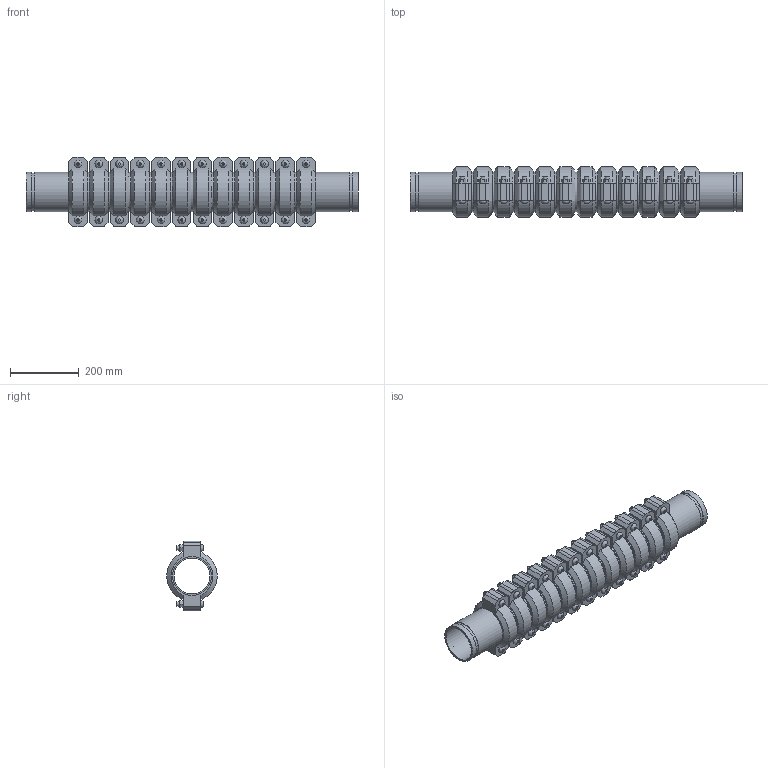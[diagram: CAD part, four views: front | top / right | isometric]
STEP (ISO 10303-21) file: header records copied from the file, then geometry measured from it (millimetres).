
FILE_DESCRIPTION(/* description */ ('VIC EXPANSION JOINT 12 COUPLINGS COMPRESSED STYLE 155 (OGS)','CAx-IF Rec.Pracs.---Representation and Presentation of Product Manufacturing Information (PMI)---4.0---2014-10-13'),/* implementation_level */ '2;1');
FILE_NAME(/* name */ 'C:\Users\kkamble\AppData\Roaming\Autodesk\ApplicationPlugins\Victaulic.Temp\A100\Victaulic_IPS_Expansion Joint_Compressed_12 Couplings_Style 155 (OGS)_4 (100).stp',/* time_stamp */ '2021-06-27T00:21:27+02:00',/* author */ ('kkamble'),/* organization */ ('Victaulic'),/* preprocessor_version */ 'ST-DEVELOPER v17.2',/* originating_system */ 'Autodesk Inventor 2019',/* authorisation */ '');
FILE_SCHEMA (('AP242_MANAGED_MODEL_BASED_3D_ENGINEERING_MIM_LF { 1 0 10303 442 1 1 4 }'));
Length unit declared in the file: inch
Products named in the file (4): 155-04.0; Nipple-04.0; Nipple-04.0_1; 075_12_Coup-04.0
Assembly tree (25 placements, depth 2):
  155-04.0
    Nipple-04.0  x2
    Nipple-04.0_1  x11
    075_12_Coup-04.0  x12
Bounding box: 969.01 x 147.32 x 203.96 mm (x, y, z)
Volume: 7282301.1 mm3; surface area: 1678635.2 mm2
Topology: 25 solids, 49 shells, 840 faces, 1986 edges, 1392 vertices
Faces by surface type: plane 510, cylinder 258, cone 48, bspline 24
Full cylindrical faces by diameter (mm): 12.7 x48, 14.605 x24, 103.988 x13, 107.95 x12, 110.084 x26, 114.3 x63
Entity records: 2922 total; most frequent: CARTESIAN_POINT 509, DIRECTION 493, ORIENTED_EDGE 386, AXIS2_PLACEMENT_3D 200, EDGE_CURVE 193, VERTEX_POINT 138, EDGE_LOOP 107, LINE 93
